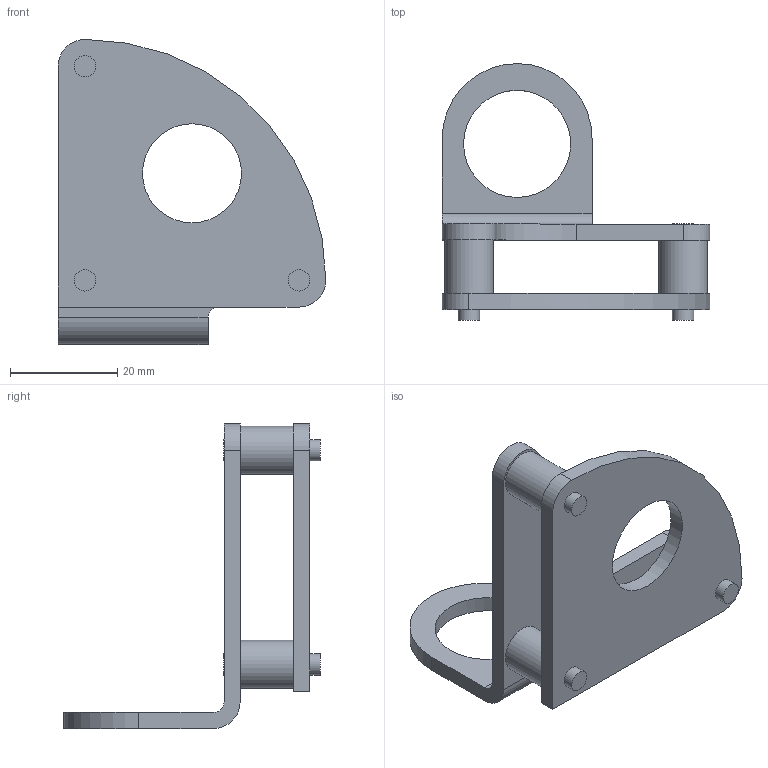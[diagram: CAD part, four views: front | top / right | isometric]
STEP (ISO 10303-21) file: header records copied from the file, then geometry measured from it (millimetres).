
FILE_DESCRIPTION(/* description */ ('STEP AP203'),/* implementation_level */ '2;1');
FILE_NAME(/* name */ 'P_MZ_Z_0072',/* time_stamp */ '2023-03-02T10:15:14+01:00',/* author */ ('License CC BY-ND 4.0'),/* organization */ ('CADENAS'),/* preprocessor_version */ 'ST-DEVELOPER v18.102',/* originating_system */ 'PARTsolutions',/* authorisation */ ' ');
FILE_SCHEMA (('CONFIG_CONTROL_DESIGN'));
Length unit declared in the file: millimetre
Products named in the file (1): P_MZ_Z_0072
Bounding box: 50 x 48 x 57 mm (x, y, z)
Volume: 11913.5 mm3; surface area: 8783.6 mm2
Topology: 1 solids, 1 shells, 40 faces, 97 edges, 67 vertices
Faces by surface type: cylinder 21, plane 19
Full cylindrical faces by diameter (mm): 4 x6, 9 x3, 18.5 x1, 20 x1
Entity records: 1109 total; most frequent: DIRECTION 201, CARTESIAN_POINT 176, ORIENTED_EDGE 154, AXIS2_PLACEMENT_3D 83, EDGE_CURVE 77, EDGE_LOOP 67, FACE_BOUND 67, VERTEX_POINT 58
